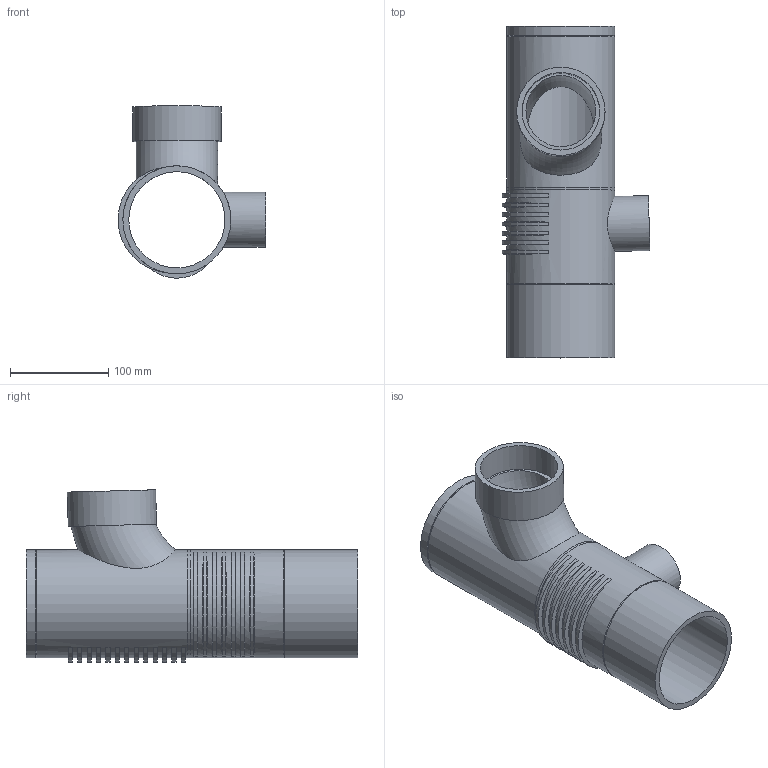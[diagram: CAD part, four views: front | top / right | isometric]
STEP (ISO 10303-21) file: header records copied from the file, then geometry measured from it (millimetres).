
FILE_DESCRIPTION(/* description */ (''),/* implementation_level */ '2;1');
FILE_NAME(/* name */ 'Z:\Geberit\Export\NewStep\310815.stp',/* time_stamp */ '2014-04-01T20:08:39+02:00',/* author */ ('ML'),/* organization */ (''),/* preprocessor_version */ 'ST-DEVELOPER v15.2',/* originating_system */ 'Autodesk Inventor 2014',/* authorisation */ '');
FILE_SCHEMA (('AUTOMOTIVE_DESIGN { 1 0 10303 214 3 1 1 }'));
Length unit declared in the file: millimetre
Products named in the file (5): 310058; 861734; 310088; 861735; 310815
Bounding box: 150.5 x 338 x 175.64 mm (x, y, z)
Volume: 779304.6 mm3; surface area: 282102.9 mm2
Topology: 2 solids, 2 shells, 84 faces, 187 edges, 128 vertices
Faces by surface type: plane 34, cylinder 30, cone 18, torus 2
Full cylindrical faces by diameter (mm): 49.6 x1, 56 x1, 79 x1, 90 x1, 98 x2, 110 x4
Entity records: 3124 total; most frequent: CARTESIAN_POINT 1189, DIRECTION 398, ORIENTED_EDGE 320, AXIS2_PLACEMENT_3D 179, EDGE_CURVE 160, EDGE_LOOP 132, VERTEX_POINT 120, CIRCLE 86
